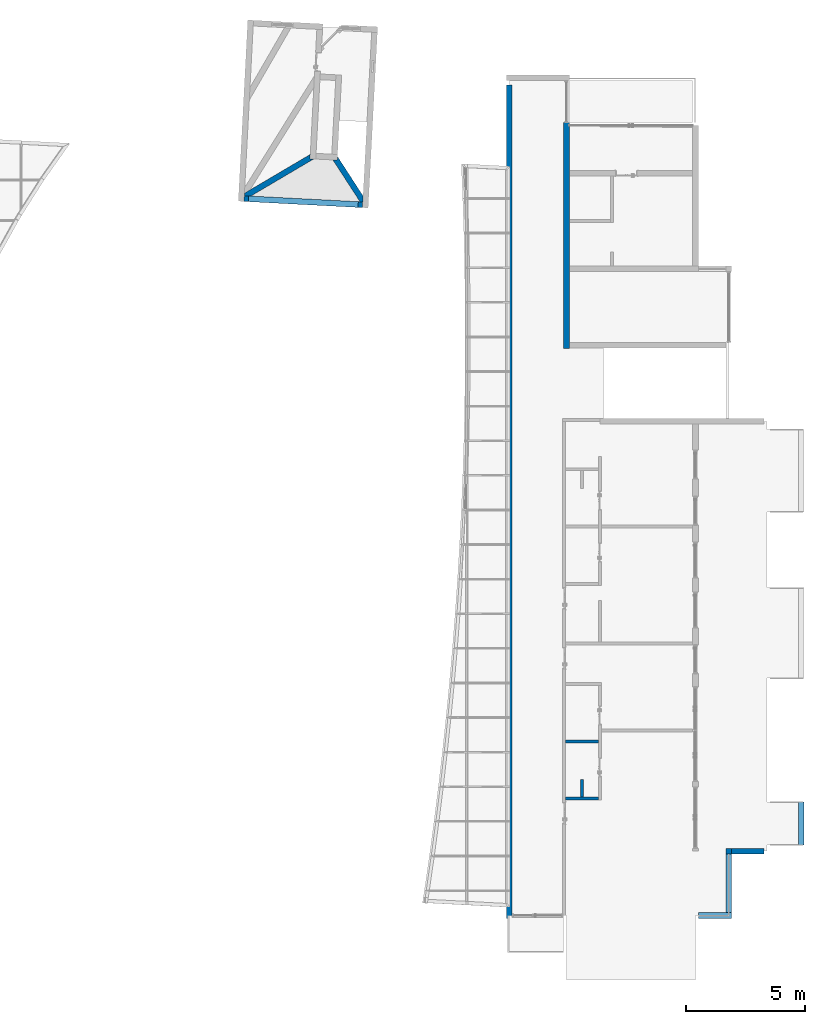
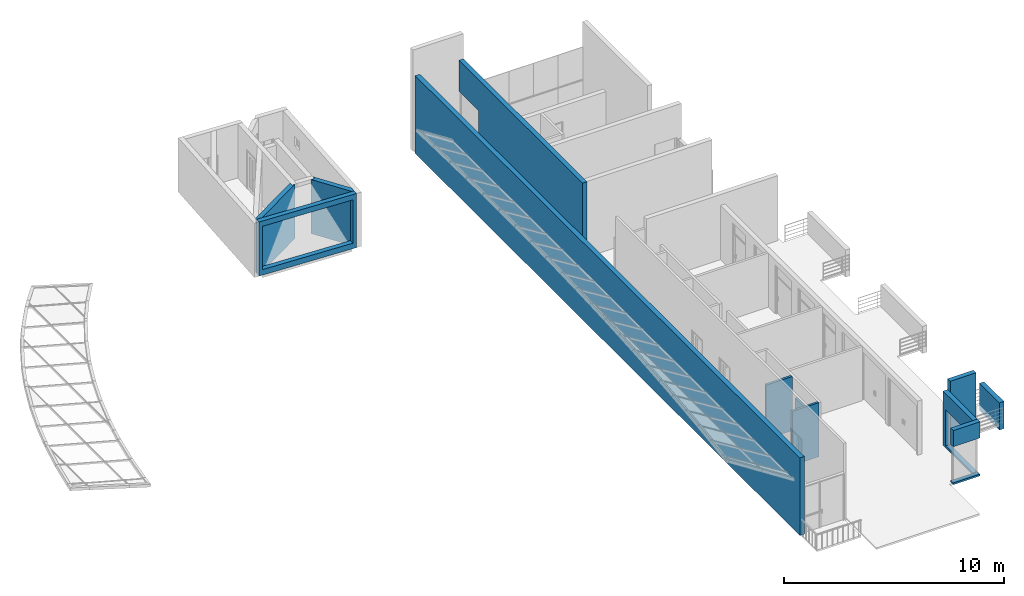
# One storey, part 20 of 33: 12 walls, 5 openings.
"""IFC2X3 building model written with IfcOpenShell, lengths in millimetres."""

from ifc_helpers import new_model, entity, si_unit, converted_unit, derived_unit, direction, frame, frame_2d, origin, place, context, subcontext, project, spatial, polyline, rectangle, outline, extrude, faceted_brep, material, layer, layer_set, layer_usage, type_object, element, save


model = new_model("IFC2X3")

# Units and contexts
model_context = context("Model", 3, precision=0.01, world=origin(), true_north=direction((6.12303176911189e-17, 1.0)))
body_context = subcontext(model_context, "Body", "Model", "MODEL_VIEW")
ifc_project = project(units=[si_unit("LENGTHUNIT", "METRE", prefix="MILLI"), si_unit("AREAUNIT", "SQUARE_METRE"), si_unit("VOLUMEUNIT", "CUBIC_METRE"), converted_unit("PLANEANGLEUNIT", "DEGREE", entity("IfcRatioMeasure", 0.0174532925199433), si_unit("PLANEANGLEUNIT", "RADIAN"), dimensions=[0, 0, 0, 0, 0, 0, 0]), si_unit("MASSUNIT", "GRAM", prefix="KILO"), derived_unit("MASSDENSITYUNIT", [(si_unit("MASSUNIT", "GRAM", prefix="KILO"), 1), (si_unit("LENGTHUNIT", "METRE"), -3)]), si_unit("TIMEUNIT", "SECOND"), si_unit("FREQUENCYUNIT", "HERTZ"), si_unit("THERMODYNAMICTEMPERATUREUNIT", "DEGREE_CELSIUS"), derived_unit("THERMALTRANSMITTANCEUNIT", [(si_unit("MASSUNIT", "GRAM", prefix="KILO"), 1), (si_unit("THERMODYNAMICTEMPERATUREUNIT", "KELVIN"), -1), (si_unit("TIMEUNIT", "SECOND"), -3)]), derived_unit("VOLUMETRICFLOWRATEUNIT", [(si_unit("LENGTHUNIT", "METRE"), 3), (si_unit("TIMEUNIT", "SECOND"), -1)]), si_unit("ELECTRICCURRENTUNIT", "AMPERE"), si_unit("ELECTRICVOLTAGEUNIT", "VOLT"), si_unit("POWERUNIT", "WATT"), si_unit("FORCEUNIT", "NEWTON", prefix="KILO"), si_unit("ILLUMINANCEUNIT", "LUX"), si_unit("LUMINOUSFLUXUNIT", "LUMEN"), si_unit("LUMINOUSINTENSITYUNIT", "CANDELA"), derived_unit("USERDEFINED", [(si_unit("MASSUNIT", "GRAM", prefix="KILO"), -1), (si_unit("LENGTHUNIT", "METRE"), -2), (si_unit("TIMEUNIT", "SECOND"), 3), (si_unit("LUMINOUSFLUXUNIT", "LUMEN"), 1)]), derived_unit("LINEARVELOCITYUNIT", [(si_unit("LENGTHUNIT", "METRE"), 1), (si_unit("TIMEUNIT", "SECOND"), -1)]), si_unit("PRESSUREUNIT", "PASCAL"), derived_unit("USERDEFINED", [(si_unit("LENGTHUNIT", "METRE"), -2), (si_unit("MASSUNIT", "GRAM", prefix="KILO"), 1), (si_unit("TIMEUNIT", "SECOND"), -2)])], contexts=[model_context])

# Site, building, storey
site_placement = place(None, origin())
site = spatial("IfcSite", under=ifc_project, at=site_placement, Name="表面", CompositionType="ELEMENT")
building_placement = place(site_placement, origin())
building = spatial("IfcBuilding", under=site, at=building_placement, CompositionType="ELEMENT")
storey_placement = place(building_placement, frame((0.0, 0.0, 6000.0)))
storey = spatial("IfcBuildingStorey", under=building, at=storey_placement, Name="3F", CompositionType="ELEMENT", Elevation=6000.00000000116)

# Wall, opening
ifc_material_1 = material(Name="白色涂料")
ifc_layer_1 = layer(ifc_material_1, 10.0)
ifc_material_2 = material(Name="默认墙")
ifc_layer_2 = layer(ifc_material_2, 220.0)
ifc_layer_3 = layer(ifc_material_1, 10.0)
ifc_layer_set_1 = layer_set([ifc_layer_1, ifc_layer_2, ifc_layer_3], Name="基本墙:粉刷墙240")
ifc_layer_usage_1 = layer_usage(ifc_layer_set_1, "AXIS2", "NEGATIVE", 120.0)
wall_type_1 = type_object("IfcWallType", Name="基本墙:粉刷墙240", PredefinedType="STANDARD", material=ifc_layer_set_1)
wall_1_placement = place(storey_placement, frame((-25539.1889056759, 625.220494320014, 0.0), z_axis=(0.0, 0.0, 1.0), x_axis=(0.998629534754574, -0.0523359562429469, 0.0)))
wall_1 = element("IfcWallStandardCase", 1, at=wall_1_placement, inside=storey, type_object=wall_type_1, material=ifc_layer_usage_1, Name="基本墙:粉刷墙240", ObjectType="基本墙:粉刷墙240", context=body_context, shape_type="SweptSolid", body=[
    extrude(rectangle(XDim=4970.00000000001, YDim=240.0, at=frame_2d((2485.0, 2.1316282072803e-14), x_axis=(-1.0, 0.0))), origin(), (0.0, 0.0, 1.0), 3000.0),
])
opening_1_placement = place(wall_1_placement, origin())
element("IfcOpeningElement", 2, at=opening_1_placement, cuts=wall_1, Name="基本墙:粉刷墙240", ObjectType="Opening", context=body_context, shape_type="SweptSolid", body=[
    extrude(rectangle(XDim=2400.0, YDim=4600.0, at=frame_2d((0.0, 0.0), x_axis=(0.0, 1.0))), frame((2483.74418598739, 120.0, 1505.75723014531), z_axis=(0.0, -1.0, 0.0), x_axis=(-1.0, 0.0, 0.0)), (0.0, 0.0, 1.0), 240.0),
])

# Walls
ifc_layer_usage_2 = layer_usage(ifc_layer_set_1, "AXIS2", "NEGATIVE", 120.0)
wall_2_placement = place(storey_placement, frame((-21732.0538353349, 2326.78176508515, 0.0), z_axis=(0.0, 0.0, 1.0), x_axis=(0.544005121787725, -0.839081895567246, 0.0)))
element("IfcWallStandardCase", 3, at=wall_2_placement, inside=storey, type_object=wall_type_1, material=ifc_layer_usage_2, Name="基本墙:粉刷墙240", ObjectType="基本墙:粉刷墙240", context=body_context, shape_type="SweptSolid", body=[
    extrude(outline(polyline([(2110.0691498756, -120.0), (2177.76642990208, -26.6744639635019), (1975.56520458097, 120.0), (0.0, 120.0), (128.655917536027, 26.674463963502), (22.2599333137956, -120.0), (2110.0691498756, -120.0)])), origin(), (0.0, 0.0, 1.0), 3000.0),
])
ifc_layer_usage_3 = layer_usage(ifc_layer_set_1, "AXIS2", "NEGATIVE", 120.0)
wall_3_placement = place(storey_placement, frame((-22683.1581428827, 2388.16781438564, 0.0), z_axis=(0.0, 0.0, 1.0), x_axis=(-0.861154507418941, -0.508343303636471, 0.0)))
element("IfcWallStandardCase", 4, at=wall_3_placement, inside=storey, type_object=wall_type_1, material=ifc_layer_usage_3, Name="基本墙:粉刷墙240", ObjectType="基本墙:粉刷墙240", context=body_context, shape_type="SweptSolid", body=[
    extrude(outline(polyline([(3232.08924626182, -120.0), (3289.34031175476, -33.6784452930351), (3057.62825175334, 120.0), (0.0, 120.0), (130.153224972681, 33.6784452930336), (28.2290327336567, -120.0), (2965.15406707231, -120.0), (3232.08924626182, -120.0)])), origin(), (0.0, 0.0, 1.0), 3000.0),
])
ifc_layer_usage_4 = layer_usage(ifc_layer_set_1, "AXIS2", "NEGATIVE", 120.0)
wall_4_placement = place(storey_placement, frame((-14430.2499126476, 5383.13157334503, 0.0), z_axis=(0.0, 0.0, 1.0), x_axis=(0.0, -1.0, 0.0)))
element("IfcWallStandardCase", 5, at=wall_4_placement, inside=storey, type_object=wall_type_1, material=ifc_layer_usage_4, Name="基本墙:粉刷墙240", ObjectType="基本墙:粉刷墙240", context=body_context, shape_type="SweptSolid", body=[
    extrude(rectangle(XDim=34920.0, YDim=240.000000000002, at=frame_2d((17460.0, 1.20792265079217e-13), x_axis=(-1.0, 0.0))), origin(), (0.0, 0.0, 1.0), 4300.0),
])

# Wall, opening
ifc_layer_usage_5 = layer_usage(ifc_layer_set_1, "AXIS2", "NEGATIVE", 120.0)
wall_5_placement = place(storey_placement, frame((-6510.24991264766, -29416.868426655, 0.0)))
wall_5 = element("IfcWallStandardCase", 6, at=wall_5_placement, inside=storey, type_object=wall_type_1, material=ifc_layer_usage_5, Name="基本墙:粉刷墙240", ObjectType="基本墙:粉刷墙240", context=body_context, shape_type="SweptSolid", body=[
    extrude(rectangle(XDim=1400.0, YDim=239.999999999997, at=frame_2d((699.999999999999, 0.0), x_axis=(-1.0, 0.0))), origin(), (0.0, 0.0, 1.0), 3000.0),
])
opening_2_placement = place(wall_5_placement, frame((0.0, -120.0, 100.0)))
element("IfcOpeningElement", 7, at=opening_2_placement, cuts=wall_5, Name="基本墙:粉刷墙240", ObjectType="Opening", context=body_context, shape_type="Brep", body=[
    faceted_brep([(1160.0, 2700.0, 0.0), (1160.0, 2700.0, 2000.0), (1400.0, 2700.0, 2000.0), (1400.0, 2700.0, 0.0), (1160.0, 240.0, 0.0), (1160.0, 240.0, 2000.0), (0.0, 240.0, 2000.0), (0.0, 0.0, 2000.0), (1400.0, 0.0, 2000.0), (1400.0, 0.0, 0.0), (0.0, 0.0, 0.0), (0.0, 240.0, 0.0)], [[[0, 1, 2, 3]], [[1, 0, 4, 5]], [[2, 1, 5, 6, 7, 8]], [[3, 2, 8, 9]], [[0, 3, 9, 10, 11, 4]], [[11, 10, 7, 6]], [[5, 4, 11, 6]], [[9, 8, 7, 10]]]),
])

ifc_layer_usage_6 = layer_usage(ifc_layer_set_1, "AXIS2", "NEGATIVE", 120.0)
wall_6_placement = place(storey_placement, frame((-5230.24991264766, -29296.868426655, 0.0), z_axis=(0.0, 0.0, 1.0), x_axis=(0.0, 1.0, 0.0)))
wall_6 = element("IfcWallStandardCase", 8, at=wall_6_placement, inside=storey, type_object=wall_type_1, material=ifc_layer_usage_6, Name="基本墙:粉刷墙240", ObjectType="基本墙:粉刷墙240", context=body_context, shape_type="SweptSolid", body=[
    extrude(rectangle(XDim=2700.0, YDim=240.0, at=frame_2d((1350.0, 0.0), x_axis=(-1.0, 0.0))), origin(), (0.0, 0.0, 1.0), 3000.0),
])
opening_3_placement = place(wall_6_placement, frame((-240.0, 1280.0, 100.0), z_axis=(0.0, 0.0, 1.0), x_axis=(0.0, -1.0, 0.0)))
element("IfcOpeningElement", 9, at=opening_3_placement, cuts=wall_6, Name="基本墙:粉刷墙240", ObjectType="Opening", context=body_context, shape_type="Brep", body=[
    faceted_brep([(1160.0, 2700.0, 0.0), (1160.0, 2700.0, 2000.0), (1400.0, 2700.0, 2000.0), (1400.0, 2700.0, 0.0), (1160.0, 240.0, 0.0), (1160.0, 240.0, 2000.0), (0.0, 240.0, 2000.0), (0.0, 0.0, 2000.0), (1400.0, 0.0, 2000.0), (1400.0, 0.0, 0.0), (0.0, 0.0, 0.0), (0.0, 240.0, 0.0)], [[[0, 1, 2, 3]], [[1, 0, 4, 5]], [[2, 1, 5, 6, 7, 8]], [[3, 2, 8, 9]], [[0, 3, 9, 10, 11, 4]], [[11, 10, 7, 6]], [[5, 4, 11, 6]], [[9, 8, 7, 10]]]),
])

ifc_layer_usage_7 = layer_usage(ifc_layer_set_1, "AXIS2", "NEGATIVE", 120.0)
wall_7_placement = place(storey_placement, frame((-5350.24991264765, -26716.868426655, 0.0)))
wall_7 = element("IfcWallStandardCase", 10, at=wall_7_placement, inside=storey, type_object=wall_type_1, material=ifc_layer_usage_7, Name="基本墙:粉刷墙240", ObjectType="基本墙:粉刷墙240", context=body_context, shape_type="SweptSolid", body=[
    extrude(rectangle(XDim=1360.0, YDim=240.000000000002, at=frame_2d((920.0, -1.52766688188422e-12), x_axis=(-1.0, 0.0))), origin(), (0.0, 0.0, 1.0), 3600.0),
])
opening_4_placement = place(wall_7_placement, frame((-1160.0, -2820.0, 100.0)))
element("IfcOpeningElement", 11, at=opening_4_placement, cuts=wall_7, Name="基本墙:粉刷墙240", ObjectType="Opening", context=body_context, shape_type="Brep", body=[
    faceted_brep([(1160.0, 2700.0, 0.0), (1160.0, 2700.0, 2000.0), (1400.0, 2700.0, 2000.0), (1400.0, 2700.0, 0.0), (1160.0, 240.0, 0.0), (1160.0, 240.0, 2000.0), (0.0, 240.0, 2000.0), (0.0, 0.0, 2000.0), (1400.0, 0.0, 2000.0), (1400.0, 0.0, 0.0), (0.0, 0.0, 0.0), (0.0, 240.0, 0.0)], [[[0, 1, 2, 3]], [[1, 0, 4, 5]], [[2, 1, 5, 6, 7, 8]], [[3, 2, 8, 9]], [[0, 3, 9, 10, 11, 4]], [[11, 10, 7, 6]], [[5, 4, 11, 6]], [[9, 8, 7, 10]]]),
])

ifc_layer_usage_8 = layer_usage(ifc_layer_set_1, "AXIS2", "NEGATIVE", 120.0)
wall_8_placement = place(storey_placement, frame((-12030.2499126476, 5563.13157334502, 0.0), z_axis=(0.0, 0.0, 1.0), x_axis=(0.0, -1.0, 0.0)))
wall_8 = element("IfcWallStandardCase", 12, at=wall_8_placement, inside=storey, type_object=wall_type_1, material=ifc_layer_usage_8, Name="基本墙:粉刷墙240", ObjectType="基本墙:粉刷墙240", context=body_context, shape_type="SweptSolid", body=[
    extrude(rectangle(XDim=11220.0, YDim=240.000000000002, at=frame_2d((5610.0, -4.2632564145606e-13), x_axis=(-1.0, 0.0))), origin(), (0.0, 0.0, 1.0), 4200.0),
])
opening_5_placement = place(wall_8_placement, origin())
element("IfcOpeningElement", 13, at=opening_5_placement, cuts=wall_8, Name="基本墙:粉刷墙240", ObjectType="Opening", context=body_context, shape_type="SweptSolid", body=[
    extrude(rectangle(XDim=2500.0, YDim=1760.0, at=frame_2d((5.6843418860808e-13, 0.0), x_axis=(1.0, 0.0))), frame((880.0, -272.399999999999, 1250.0), z_axis=(0.0, 1.0, 0.0), x_axis=(0.0, 0.0, 1.0)), (0.0, 0.0, 1.0), 544.799999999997),
])

# Walls
ifc_layer_usage_9 = layer_usage(ifc_layer_set_1, "AXIS2", "NEGATIVE", 120.0)
wall_9_placement = place(storey_placement, frame((-2200.24991264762, -26465.7457415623, -300.0), z_axis=(0.0, 0.0, 1.0), x_axis=(0.0, 1.0, 0.0)))
element("IfcWallStandardCase", 14, at=wall_9_placement, inside=storey, type_object=wall_type_1, material=ifc_layer_usage_9, Name="基本墙:粉刷墙240", ObjectType="基本墙:粉刷墙240", context=body_context, shape_type="SweptSolid", body=[
    extrude(rectangle(XDim=1800.0, YDim=240.0, at=frame_2d((899.999999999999, 0.0), x_axis=(-1.0, 0.0))), origin(), (0.0, 0.0, 1.0), 1500.0),
])
ifc_layer_4 = layer(ifc_material_1, 10.0)
ifc_layer_5 = layer(ifc_material_2, 100.0)
ifc_layer_6 = layer(ifc_material_1, 10.0)
ifc_layer_set_2 = layer_set([ifc_layer_4, ifc_layer_5, ifc_layer_6], Name="基本墙:粉刷墙120")
ifc_layer_usage_10 = layer_usage(ifc_layer_set_2, "AXIS2", "NEGATIVE", 60.0)
wall_type_2 = type_object("IfcWallType", Name="基本墙:粉刷墙120", PredefinedType="STANDARD", material=ifc_layer_set_2)
wall_10_placement = place(storey_placement, frame((-10690.2499126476, -22116.868426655, 0.0), z_axis=(0.0, 0.0, 1.0), x_axis=(-1.0, 0.0, 0.0)))
element("IfcWallStandardCase", 15, at=wall_10_placement, inside=storey, type_object=wall_type_2, material=ifc_layer_usage_10, Name="基本墙:粉刷墙120", ObjectType="基本墙:粉刷墙120", context=body_context, shape_type="SweptSolid", body=[
    extrude(rectangle(XDim=1380.0, YDim=119.999999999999, at=frame_2d((690.000000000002, -1.74082970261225e-13), x_axis=(-1.0, 0.0))), origin(), (0.0, 0.0, 1.0), 3000.0),
])
ifc_layer_usage_11 = layer_usage(ifc_layer_set_2, "AXIS2", "NEGATIVE", 60.0)
wall_11_placement = place(storey_placement, frame((-10690.2499126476, -24516.868426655, 0.0), z_axis=(0.0, 0.0, 1.0), x_axis=(-1.0, 0.0, 0.0)))
element("IfcWallStandardCase", 16, at=wall_11_placement, inside=storey, type_object=wall_type_2, material=ifc_layer_usage_11, Name="基本墙:粉刷墙120", ObjectType="基本墙:粉刷墙120", context=body_context, shape_type="SweptSolid", body=[
    extrude(rectangle(XDim=1380.0, YDim=119.999999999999, at=frame_2d((690.000000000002, -1.74082970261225e-13), x_axis=(-1.0, 0.0))), origin(), (0.0, 0.0, 1.0), 3000.0),
])
ifc_layer_usage_12 = layer_usage(ifc_layer_set_2, "AXIS2", "NEGATIVE", 60.0)
wall_12_placement = place(storey_placement, frame((-11380.2499126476, -24456.868426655, 0.0), z_axis=(0.0, 0.0, 1.0), x_axis=(0.0, 1.0, 0.0)))
element("IfcWallStandardCase", 17, at=wall_12_placement, inside=storey, type_object=wall_type_2, material=ifc_layer_usage_12, Name="基本墙:粉刷墙120", ObjectType="基本墙:粉刷墙120", context=body_context, shape_type="SweptSolid", body=[
    extrude(rectangle(XDim=740.000000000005, YDim=119.999999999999, at=frame_2d((370.000000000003, -8.17124146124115e-14), x_axis=(-1.0, 0.0))), origin(), (0.0, 0.0, 1.0), 3000.0),
])

save(model, "model.ifc")
